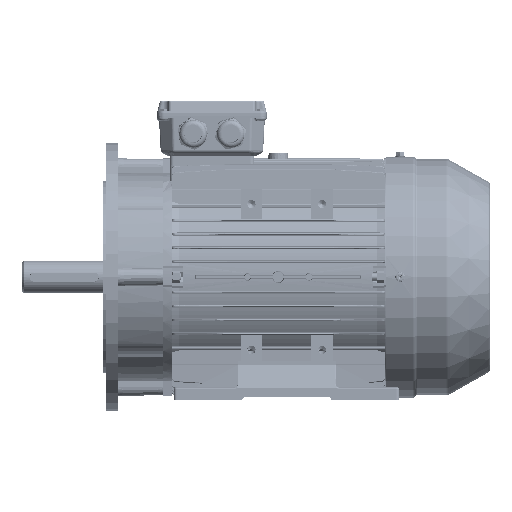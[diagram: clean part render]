
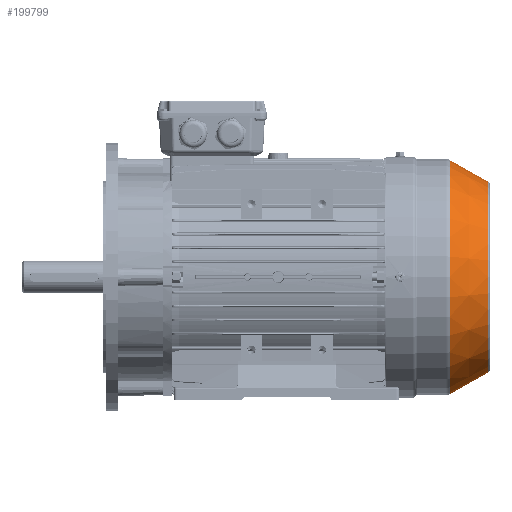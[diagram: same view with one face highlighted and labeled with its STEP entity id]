
A CAD part, top view. The second image highlights one B-rep face of the part: STEP entity #199799.
In plain terms, the highlighted conical face has half-angle 29.472 degrees and reference radius 154 mm.
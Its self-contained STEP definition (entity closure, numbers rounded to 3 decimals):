
#1491 = AXIS2_PLACEMENT_3D ( 'NONE', #232424, #195498, #234026 ) ;
#1999 = CARTESIAN_POINT ( 'NONE',  ( -81., 154., 0. ) ) ;
#5624 = VERTEX_POINT ( 'NONE', #236725 ) ;
#8745 = FACE_OUTER_BOUND ( 'NONE', #146680, .T. ) ;
#40303 = EDGE_CURVE ( 'NONE', #154924, #213876, #111331, .T. ) ;
#40600 = AXIS2_PLACEMENT_3D ( 'NONE', #48370, #68819, #161906 ) ;
#41769 = DIRECTION ( 'NONE',  ( 1., 0., 0. ) ) ;
#44807 = CIRCLE ( 'NONE', #40600, 152.706 ) ;
#48370 = CARTESIAN_POINT ( 'NONE',  ( -83.29, 0., 0. ) ) ;
#53447 = VERTEX_POINT ( 'NONE', #162557 ) ;
#58405 = DIRECTION ( 'NONE',  ( 0.871, 0.492, 0. ) ) ;
#68819 = DIRECTION ( 'NONE',  ( -1., 0., 0. ) ) ;
#79413 = DIRECTION ( 'NONE',  ( 0., 1., 0. ) ) ;
#94709 = DIRECTION ( 'NONE',  ( 0.871, -0.492, 0. ) ) ;
#109482 = CARTESIAN_POINT ( 'NONE',  ( -83.29, -152.706, 0. ) ) ;
#111331 = LINE ( 'NONE', #171199, #173163 ) ;
#115271 = CARTESIAN_POINT ( 'NONE',  ( -133.46, -124.353, 0. ) ) ;
#115367 = LINE ( 'NONE', #1999, #197691 ) ;
#127226 = ORIENTED_EDGE ( 'NONE', *, *, #174659, .F. ) ;
#133610 = ORIENTED_EDGE ( 'NONE', *, *, #168200, .T. ) ;
#134627 = CARTESIAN_POINT ( 'NONE',  ( -81., 0., 0. ) ) ;
#135432 = EDGE_CURVE ( 'NONE', #53447, #213876, #44807, .T. ) ;
#143122 = ORIENTED_EDGE ( 'NONE', *, *, #40303, .F. ) ;
#146680 = EDGE_LOOP ( 'NONE', ( #143122, #127226, #133610, #175453 ) ) ;
#154924 = VERTEX_POINT ( 'NONE', #115271 ) ;
#161906 = DIRECTION ( 'NONE',  ( 0., -1., 0. ) ) ;
#162557 = CARTESIAN_POINT ( 'NONE',  ( -83.29, 152.706, 0. ) ) ;
#168200 = EDGE_CURVE ( 'NONE', #5624, #53447, #115367, .T. ) ;
#171199 = CARTESIAN_POINT ( 'NONE',  ( -81., -154., 0. ) ) ;
#173163 = VECTOR ( 'NONE', #94709, 1000. ) ;
#174659 = EDGE_CURVE ( 'NONE', #5624, #154924, #193756, .T. ) ;
#175453 = ORIENTED_EDGE ( 'NONE', *, *, #135432, .T. ) ;
#193756 = CIRCLE ( 'NONE', #1491, 124.353 ) ;
#195498 = DIRECTION ( 'NONE',  ( -1., 0., 0. ) ) ;
#197691 = VECTOR ( 'NONE', #58405, 1000. ) ;
#199799 = ADVANCED_FACE ( 'NONE', ( #8745 ), #202715, .T. ) ;
#202715 = CONICAL_SURFACE ( 'NONE', #223660, 154., 0.514 ) ;
#213876 = VERTEX_POINT ( 'NONE', #109482 ) ;
#223660 = AXIS2_PLACEMENT_3D ( 'NONE', #134627, #41769, #79413 ) ;
#232424 = CARTESIAN_POINT ( 'NONE',  ( -133.46, 0., 0. ) ) ;
#234026 = DIRECTION ( 'NONE',  ( 0., -1., 0. ) ) ;
#236725 = CARTESIAN_POINT ( 'NONE',  ( -133.46, 124.353, 0. ) ) ;
